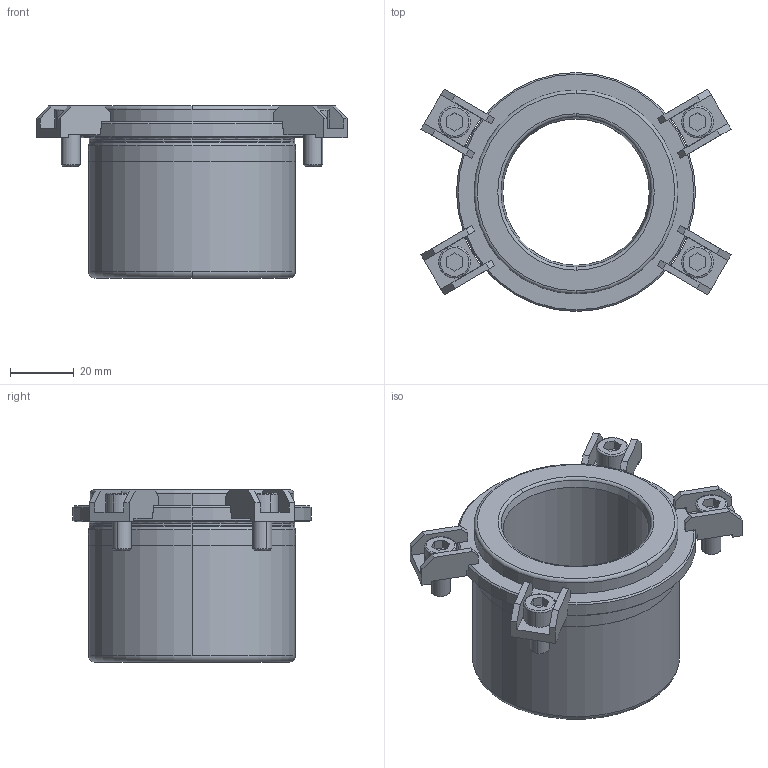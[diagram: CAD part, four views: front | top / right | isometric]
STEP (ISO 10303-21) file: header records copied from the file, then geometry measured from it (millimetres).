
FILE_DESCRIPTION((''),'2;1');
FILE_NAME('B42_038_044.stp','2008-11-04T14:34:12',(''),(''),'Mechanical Desktop 2009','Mechanical Desktop 2009',', , ');
FILE_SCHEMA(('CONFIG_CONTROL_DESIGN'));
Length unit declared in the file: millimetre
Products named in the file (2): Product; blmdl1
Assembly tree (1 placements, depth 2):
  Product
    blmdl1
Bounding box: 97.32 x 75 x 54 mm (x, y, z)
Volume: 100057.6 mm3; surface area: 30562.7 mm2
Topology: 9 solids, 9 shells, 233 faces, 598 edges, 394 vertices
Faces by surface type: plane 137, cylinder 48, cone 20, torus 16, bspline 12
Entity records: 7707 total; most frequent: CARTESIAN_POINT 1755, DIRECTION 1258, ORIENTED_EDGE 1196, EDGE_CURVE 598, AXIS2_PLACEMENT_3D 437, VERTEX_POINT 394, VECTOR 384, LINE 384
